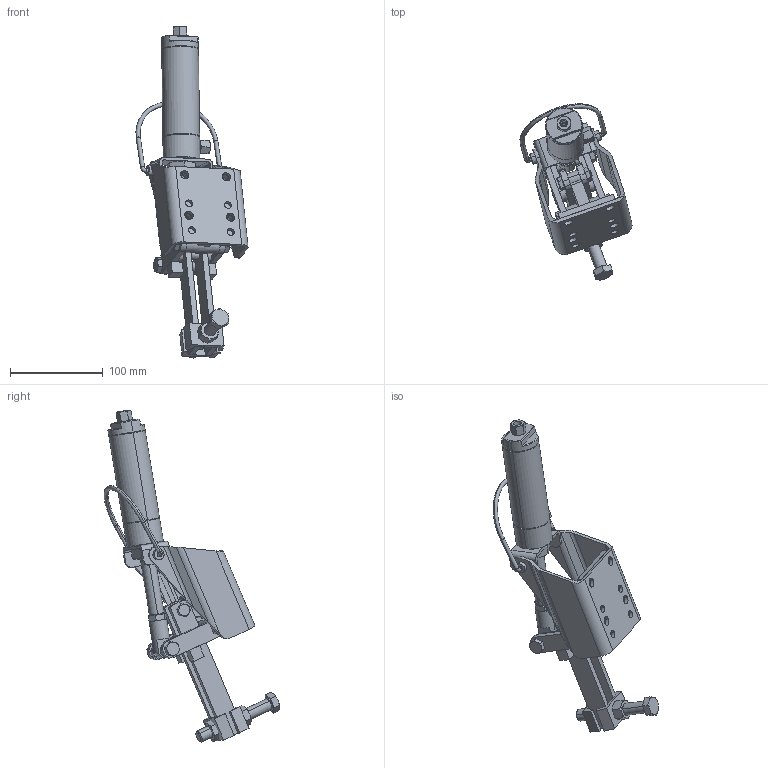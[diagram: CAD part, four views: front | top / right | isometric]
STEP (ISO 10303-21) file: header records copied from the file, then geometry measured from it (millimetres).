
FILE_DESCRIPTION((''),'2;1');
FILE_NAME('C:\1a1-lapeer-mfg\AO-402-WORK\STEP\AO-402-HD.stp','2006-06-25T12:15:11',('rtaylor'),(''),'Autodesk Inventor 9','Autodesk Inventor 9','');
FILE_SCHEMA(('AUTOMOTIVE_DESIGN { 1 0 10303 214 1 1 1 1 }'));
Length unit declared in the file: inch
Products named in the file (34): AO-402-HD; 101073; 320064-1; 120064; 171076; 180012; 121108; 190015; AO-402-HD-CP; 320078; 120078; 121091; 121085; 121030; 16-24 UNF - 1; 8-24 UNF - 2; 16 - 24; 8 - 24; 130036; 130038; 310016-L; 110016; 171021; 310016-R; 150093; 470072; 2-13 UNC - 3; 2 - 13; 171033; 101073-rod; 180042-1; 16 - 20; 4 - 16
Assembly tree (42 placements, depth 4):
  AO-402-HD
    101073
    320064-1
      120064
      171076  x2
    180012  x2
    121108
    190015
    AO-402-HD-CP
      320078
        120078
        121091
        121085
        121030
      16-24 UNF - 1
      8-24 UNF - 2  x2
      16 - 24
      8 - 24  x2
      130036  x2
      130038  x2
      310016-L
        110016
        171021
      310016-R
        110016
        171021
      150093
      470072
        2-13 UNC - 3
        2 - 13
        2 - 13
        171033  x2
    101073-rod
    180042-1
    16 - 20
    4 - 16
Bounding box: 121.15 x 189.79 x 358.59 mm (x, y, z)
Volume: 378991.6 mm3; surface area: 181825.1 mm2
Topology: 36 solids, 36 shells, 748 faces, 1718 edges, 1058 vertices
Faces by surface type: plane 252, cone 224, cylinder 196, bspline 70, torus 6
Entity records: 18164 total; most frequent: CARTESIAN_POINT 4343, DIRECTION 2865, ORIENTED_EDGE 2668, EDGE_CURVE 1334, AXIS2_PLACEMENT_3D 1172, VERTEX_POINT 822, EDGE_LOOP 670, FACE_OUTER_BOUND 581
